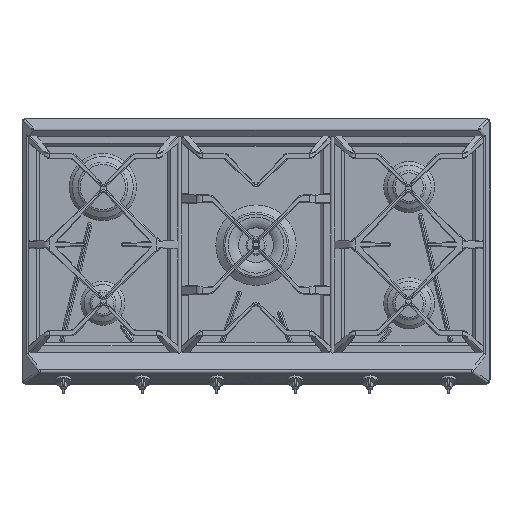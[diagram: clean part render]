
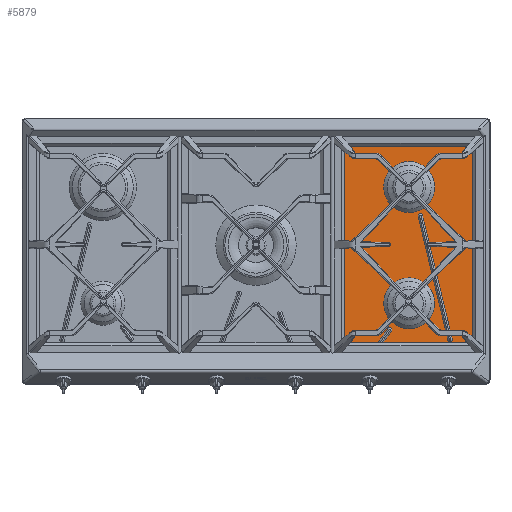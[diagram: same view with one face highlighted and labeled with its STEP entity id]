
A CAD part, top view. The second image highlights one B-rep face of the part: STEP entity #5879.
In plain terms, the highlighted planar face has unit normal (0, 0, 1).
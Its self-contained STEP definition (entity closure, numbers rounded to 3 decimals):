
#1561=FACE_BOUND('',#8370,.T.);
#1562=FACE_BOUND('',#8371,.T.);
#1563=FACE_BOUND('',#8372,.T.);
#1564=FACE_BOUND('',#8373,.T.);
#1565=FACE_BOUND('',#8374,.T.);
#2237=LINE('',#32014,#3817);
#2238=LINE('',#32018,#3818);
#2239=LINE('',#32022,#3819);
#2240=LINE('',#32026,#3820);
#2241=LINE('',#32031,#3821);
#2242=LINE('',#32034,#3822);
#2243=LINE('',#32036,#3823);
#2244=LINE('',#32038,#3824);
#3817=VECTOR('',#25134,1.);
#3818=VECTOR('',#25137,1.);
#3819=VECTOR('',#25140,1.);
#3820=VECTOR('',#25143,1.);
#3821=VECTOR('',#25148,1.);
#3822=VECTOR('',#25149,1.);
#3823=VECTOR('',#25150,1.);
#3824=VECTOR('',#25151,1.);
#5110=PLANE('',#21584);
#5879=ADVANCED_FACE('',(#1561,#1562,#1563,#1564,#1565),#5110,.T.);
#8370=EDGE_LOOP('',(#11060,#11061,#11062,#11063));
#8371=EDGE_LOOP('',(#11064,#11065,#11066,#11067));
#8372=EDGE_LOOP('',(#11068));
#8373=EDGE_LOOP('',(#11069));
#8374=EDGE_LOOP('',(#11070,#11071,#11072,#11073));
#11060=ORIENTED_EDGE('',*,*,#17955,.F.);
#11061=ORIENTED_EDGE('',*,*,#17956,.F.);
#11062=ORIENTED_EDGE('',*,*,#17957,.F.);
#11063=ORIENTED_EDGE('',*,*,#17958,.F.);
#11064=ORIENTED_EDGE('',*,*,#17959,.F.);
#11065=ORIENTED_EDGE('',*,*,#17960,.F.);
#11066=ORIENTED_EDGE('',*,*,#17961,.F.);
#11067=ORIENTED_EDGE('',*,*,#17962,.F.);
#11068=ORIENTED_EDGE('',*,*,#17963,.F.);
#11069=ORIENTED_EDGE('',*,*,#17964,.F.);
#11070=ORIENTED_EDGE('',*,*,#17965,.T.);
#11071=ORIENTED_EDGE('',*,*,#17966,.T.);
#11072=ORIENTED_EDGE('',*,*,#17967,.F.);
#11073=ORIENTED_EDGE('',*,*,#17968,.F.);
#15802=VERTEX_POINT('',#32012);
#15803=VERTEX_POINT('',#32013);
#15804=VERTEX_POINT('',#32015);
#15805=VERTEX_POINT('',#32017);
#15806=VERTEX_POINT('',#32020);
#15807=VERTEX_POINT('',#32021);
#15808=VERTEX_POINT('',#32023);
#15809=VERTEX_POINT('',#32025);
#15810=VERTEX_POINT('',#32028);
#15811=VERTEX_POINT('',#32030);
#15812=VERTEX_POINT('',#32032);
#15813=VERTEX_POINT('',#32033);
#15814=VERTEX_POINT('',#32035);
#15815=VERTEX_POINT('',#32037);
#17955=EDGE_CURVE('',#15802,#15803,#20286,.T.);
#17956=EDGE_CURVE('',#15804,#15802,#2237,.T.);
#17957=EDGE_CURVE('',#15805,#15804,#20287,.T.);
#17958=EDGE_CURVE('',#15803,#15805,#2238,.T.);
#17959=EDGE_CURVE('',#15806,#15807,#20288,.T.);
#17960=EDGE_CURVE('',#15808,#15806,#2239,.T.);
#17961=EDGE_CURVE('',#15809,#15808,#20289,.T.);
#17962=EDGE_CURVE('',#15807,#15809,#2240,.T.);
#17963=EDGE_CURVE('',#15810,#15810,#20290,.T.);
#17964=EDGE_CURVE('',#15811,#15811,#20291,.T.);
#17965=EDGE_CURVE('',#15812,#15813,#2241,.T.);
#17966=EDGE_CURVE('',#15813,#15814,#2242,.T.);
#17967=EDGE_CURVE('',#15815,#15814,#2243,.T.);
#17968=EDGE_CURVE('',#15812,#15815,#2244,.T.);
#20286=CIRCLE('',#21578,4.2);
#20287=CIRCLE('',#21579,4.2);
#20288=CIRCLE('',#21580,4.2);
#20289=CIRCLE('',#21581,4.2);
#20290=CIRCLE('',#21582,48.2);
#20291=CIRCLE('',#21583,48.2);
#21578=AXIS2_PLACEMENT_3D('',#32011,#25132,#25133);
#21579=AXIS2_PLACEMENT_3D('',#32016,#25135,#25136);
#21580=AXIS2_PLACEMENT_3D('',#32019,#25138,#25139);
#21581=AXIS2_PLACEMENT_3D('',#32024,#25141,#25142);
#21582=AXIS2_PLACEMENT_3D('',#32027,#25144,#25145);
#21583=AXIS2_PLACEMENT_3D('',#32029,#25146,#25147);
#21584=AXIS2_PLACEMENT_3D('',#32039,#25152,#25153);
#25132=DIRECTION('',(0.,0.,1.));
#25133=DIRECTION('',(1.,0.,0.));
#25134=DIRECTION('',(0.233,-0.972,0.));
#25135=DIRECTION('',(0.,0.,1.));
#25136=DIRECTION('',(1.,0.,0.));
#25137=DIRECTION('',(-0.233,0.972,0.));
#25138=DIRECTION('',(0.,0.,1.));
#25139=DIRECTION('',(1.,0.,0.));
#25140=DIRECTION('',(-0.588,-0.809,0.));
#25141=DIRECTION('',(0.,0.,1.));
#25142=DIRECTION('',(1.,0.,0.));
#25143=DIRECTION('',(0.588,0.809,0.));
#25144=DIRECTION('',(0.,0.,1.));
#25145=DIRECTION('',(1.,0.,0.));
#25146=DIRECTION('',(0.,0.,1.));
#25147=DIRECTION('',(1.,0.,0.));
#25148=DIRECTION('',(-1.,0.,0.));
#25149=DIRECTION('',(0.,-1.,0.));
#25150=DIRECTION('',(-1.,0.,0.));
#25151=DIRECTION('',(0.,-1.,0.));
#25152=DIRECTION('',(0.,0.,1.));
#25153=DIRECTION('',(1.,0.,0.));
#32011=CARTESIAN_POINT('',(810.2,84.45,13.));
#32012=CARTESIAN_POINT('',(806.116,83.47,13.));
#32013=CARTESIAN_POINT('',(814.284,85.43,13.));
#32014=CARTESIAN_POINT('',(749.972,317.324,13.));
#32015=CARTESIAN_POINT('',(749.972,317.324,13.));
#32016=CARTESIAN_POINT('',(754.056,318.305,13.));
#32017=CARTESIAN_POINT('',(758.14,319.285,13.));
#32018=CARTESIAN_POINT('',(814.284,85.43,13.));
#32019=CARTESIAN_POINT('',(680.,80.1,13.));
#32020=CARTESIAN_POINT('',(676.602,82.569,13.));
#32021=CARTESIAN_POINT('',(683.398,77.631,13.));
#32022=CARTESIAN_POINT('',(692.825,104.898,13.));
#32023=CARTESIAN_POINT('',(692.825,104.898,13.));
#32024=CARTESIAN_POINT('',(696.223,102.429,13.));
#32025=CARTESIAN_POINT('',(699.621,99.96,13.));
#32026=CARTESIAN_POINT('',(683.398,77.631,13.));
#32027=CARTESIAN_POINT('',(733.,153.,13.));
#32028=CARTESIAN_POINT('',(781.2,153.,13.));
#32029=CARTESIAN_POINT('',(733.,373.,13.));
#32030=CARTESIAN_POINT('',(781.2,373.,13.));
#32031=CARTESIAN_POINT('',(0.,462.859,13.));
#32032=CARTESIAN_POINT('',(868.515,462.859,13.));
#32033=CARTESIAN_POINT('',(595.115,462.859,13.));
#32034=CARTESIAN_POINT('',(595.115,483.25,13.));
#32035=CARTESIAN_POINT('',(595.115,65.572,13.));
#32036=CARTESIAN_POINT('',(0.,65.572,13.));
#32037=CARTESIAN_POINT('',(868.515,65.572,13.));
#32038=CARTESIAN_POINT('',(868.515,30.75,13.));
#32039=CARTESIAN_POINT('',(0.,0.,13.));
